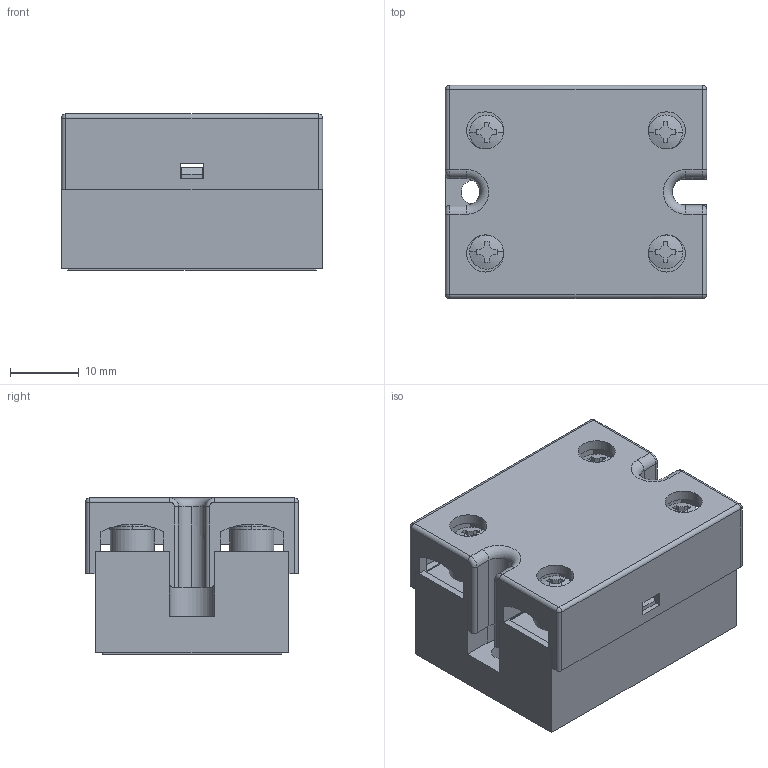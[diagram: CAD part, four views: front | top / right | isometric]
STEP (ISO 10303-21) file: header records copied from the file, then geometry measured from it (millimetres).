
FILE_DESCRIPTION(('FreeCAD Model'),'2;1');
FILE_NAME('Open CASCADE Shape Model','2026-04-29T08:46:34',(''),(''), 'Open CASCADE STEP processor 7.8','FreeCAD','Unknown');
FILE_SCHEMA(('AUTOMOTIVE_DESIGN { 1 0 10303 214 1 1 1 1 }'));
Length unit declared in the file: millimetre
Products named in the file (14): Relé de Estado Sólido TZCM; Base metalica; Contato potência 2; Contato potência 1; Base plástica; Base superior; Led indicador; Contato comando 1; Contato comando 2; Parafuso comando 2; Parafuso comando 1; Parafuso potência 1; Parafuso potência 2; Protenção plástica
Assembly tree (13 placements, depth 2):
  Relé de Estado Sólido TZCM
    Base metalica
    Contato potência 2
    Contato potência 1
    Base plástica
    Base superior
    Led indicador
    Contato comando 1
    Contato comando 2
    Parafuso comando 2
    Parafuso comando 1
    Parafuso potência 1
    Parafuso potência 2
    Protenção plástica
Bounding box: 38 x 31 x 22.7 mm (x, y, z)
Surface area: 19028.6 mm2 (no closed solid volume)
Topology: 0 solids, 13 shells, 587 faces, 1563 edges, 1019 vertices
Faces by surface type: plane 389, cylinder 159, cone 17, sphere 14, torus 8
Entity records: 18545 total; most frequent: DIRECTION 3211, CARTESIAN_POINT 3169, ORIENTED_EDGE 3098, EDGE_CURVE 1549, LINE 1089, VECTOR 1089, AXIS2_PLACEMENT_3D 1061, VERTEX_POINT 1019
